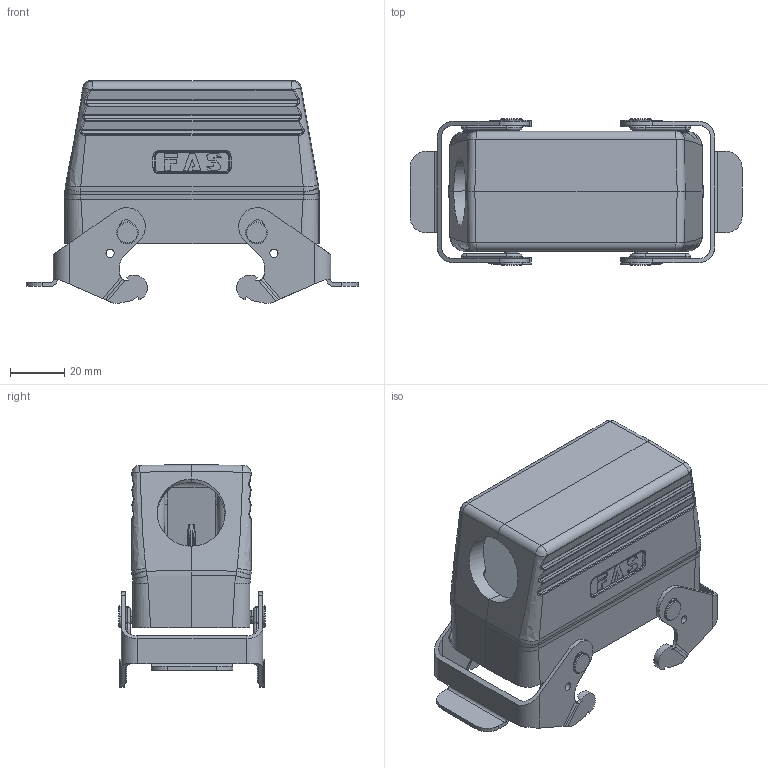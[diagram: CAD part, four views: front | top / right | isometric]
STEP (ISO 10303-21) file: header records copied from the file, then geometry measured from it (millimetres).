
FILE_DESCRIPTION (( 'STEP AP203' ), '1' );
FILE_NAME ('H16B-TSB-M25.STEP', '2020-07-02T05:14:37', ( '' ), ( '' ), 'SwSTEP 2.0', 'SolidWorks 2016', '' );
FILE_SCHEMA (( 'CONFIG_CONTROL_DESIGN' ));
Length unit declared in the file: millimetre
Products named in the file (6): H16B-TSB-M25; H16B-TS-M25 奻褲; jinshushuangkou; tanhuang; 24bcaixinshuangkou; maoding
Assembly tree (8 placements, depth 3):
  H16B-TSB-M25
    jinshushuangkou  x2
      24bcaixinshuangkou
      tanhuang
      maoding
    H16B-TS-M25 奻褲
Bounding box: 122.1 x 54 x 81.99 mm (x, y, z)
Volume: 80222.9 mm3; surface area: 47123 mm2
Topology: 11 solids, 11 shells, 849 faces, 2042 edges, 1246 vertices
Faces by surface type: cylinder 295, plane 278, bspline 222, cone 54
Entity records: 27666 total; most frequent: CARTESIAN_POINT 13607, ORIENTED_EDGE 3086, DIRECTION 2354, EDGE_CURVE 1543, VERTEX_POINT 947, AXIS2_PLACEMENT_3D 825, VECTOR 704, LINE 704
